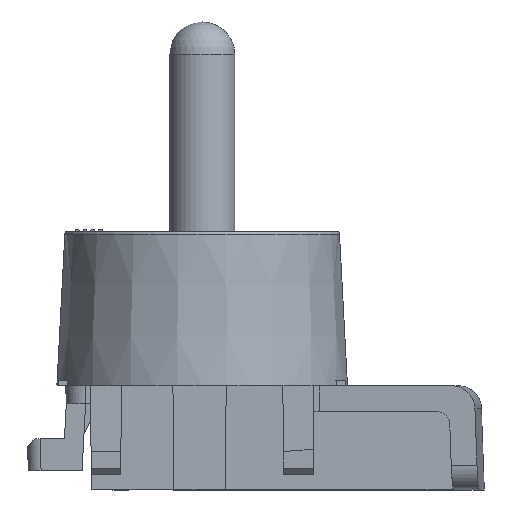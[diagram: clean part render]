
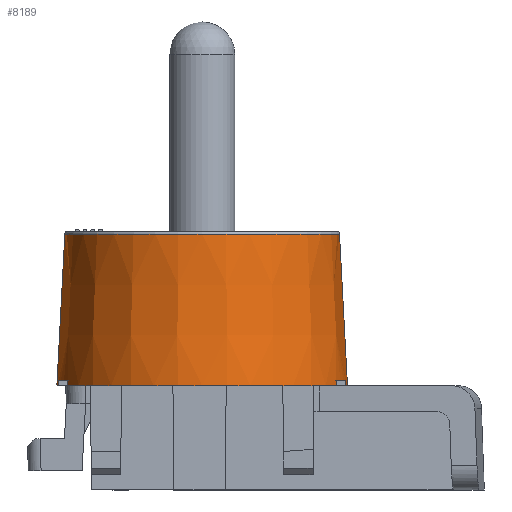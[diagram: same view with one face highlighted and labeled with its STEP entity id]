
A CAD part, front view. The second image highlights one B-rep face of the part: STEP entity #8189.
In plain terms, the highlighted conical face has half-angle 3 degrees and reference radius 11.3 mm.
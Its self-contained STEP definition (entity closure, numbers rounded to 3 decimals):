
#128=CONICAL_SURFACE('',#8724,11.3,0.052);
#391=(
BOUNDED_CURVE()
B_SPLINE_CURVE(2,(#12473,#12474,#12475),.UNSPECIFIED.,.F.,.F.)
B_SPLINE_CURVE_WITH_KNOTS((3,3),(0.097,0.141),
 .UNSPECIFIED.)
CURVE()
GEOMETRIC_REPRESENTATION_ITEM()
RATIONAL_B_SPLINE_CURVE((1.,1.,1.))
REPRESENTATION_ITEM('')
);
#392=(
BOUNDED_CURVE()
B_SPLINE_CURVE(2,(#12479,#12480,#12481),.UNSPECIFIED.,.F.,.F.)
B_SPLINE_CURVE_WITH_KNOTS((3,3),(1.243,1.287),
 .UNSPECIFIED.)
CURVE()
GEOMETRIC_REPRESENTATION_ITEM()
RATIONAL_B_SPLINE_CURVE((1.,1.,1.))
REPRESENTATION_ITEM('')
);
#393=(
BOUNDED_CURVE()
B_SPLINE_CURVE(2,(#12485,#12486,#12487),.UNSPECIFIED.,.F.,.F.)
B_SPLINE_CURVE_WITH_KNOTS((3,3),(0.097,0.14),
 .UNSPECIFIED.)
CURVE()
GEOMETRIC_REPRESENTATION_ITEM()
RATIONAL_B_SPLINE_CURVE((1.,1.,1.))
REPRESENTATION_ITEM('')
);
#394=(
BOUNDED_CURVE()
B_SPLINE_CURVE(2,(#12491,#12492,#12493),.UNSPECIFIED.,.F.,.F.)
B_SPLINE_CURVE_WITH_KNOTS((3,3),(1.242,1.286),
 .UNSPECIFIED.)
CURVE()
GEOMETRIC_REPRESENTATION_ITEM()
RATIONAL_B_SPLINE_CURVE((1.,1.,1.))
REPRESENTATION_ITEM('')
);
#455=CIRCLE('',#8726,11.276);
#456=CIRCLE('',#8727,11.3);
#457=CIRCLE('',#8728,11.276);
#458=CIRCLE('',#8729,11.3);
#459=CIRCLE('',#8730,11.3);
#460=CIRCLE('',#8731,10.681);
#678=ELLIPSE('',#8725,11.311,11.295);
#811=FACE_OUTER_BOUND('',#1269,.T.);
#1269=EDGE_LOOP('',(#5762,#5763,#5764,#5765,#5766,#5767,#5768,#5769,#5770,
#5771,#5772,#5773,#5774));
#1933=LINE('',#12438,#2706);
#1937=LINE('',#12469,#2710);
#2706=VECTOR('',#9751,11.827);
#2710=VECTOR('',#9759,11.735);
#3384=VERTEX_POINT('',#11848);
#3536=VERTEX_POINT('',#12434);
#3541=VERTEX_POINT('',#12467);
#3542=VERTEX_POINT('',#12468);
#3543=VERTEX_POINT('',#12470);
#3544=VERTEX_POINT('',#12472);
#3545=VERTEX_POINT('',#12476);
#3546=VERTEX_POINT('',#12478);
#3547=VERTEX_POINT('',#12482);
#3548=VERTEX_POINT('',#12484);
#3549=VERTEX_POINT('',#12488);
#3550=VERTEX_POINT('',#12490);
#3551=VERTEX_POINT('',#12494);
#4434=EDGE_CURVE('',#3384,#3536,#1933,.T.);
#4440=EDGE_CURVE('',#3541,#3542,#1937,.T.);
#4441=EDGE_CURVE('',#3542,#3543,#678,.T.);
#4442=EDGE_CURVE('',#3543,#3544,#391,.T.);
#4443=EDGE_CURVE('',#3544,#3545,#455,.T.);
#4444=EDGE_CURVE('',#3545,#3546,#392,.T.);
#4445=EDGE_CURVE('',#3546,#3547,#456,.T.);
#4446=EDGE_CURVE('',#3547,#3548,#393,.T.);
#4447=EDGE_CURVE('',#3548,#3549,#457,.T.);
#4448=EDGE_CURVE('',#3549,#3550,#394,.T.);
#4449=EDGE_CURVE('',#3550,#3551,#458,.T.);
#4450=EDGE_CURVE('',#3551,#3536,#459,.T.);
#4451=EDGE_CURVE('',#3384,#3541,#460,.T.);
#5762=ORIENTED_EDGE('',*,*,#4440,.T.);
#5763=ORIENTED_EDGE('',*,*,#4441,.T.);
#5764=ORIENTED_EDGE('',*,*,#4442,.T.);
#5765=ORIENTED_EDGE('',*,*,#4443,.T.);
#5766=ORIENTED_EDGE('',*,*,#4444,.T.);
#5767=ORIENTED_EDGE('',*,*,#4445,.T.);
#5768=ORIENTED_EDGE('',*,*,#4446,.T.);
#5769=ORIENTED_EDGE('',*,*,#4447,.T.);
#5770=ORIENTED_EDGE('',*,*,#4448,.T.);
#5771=ORIENTED_EDGE('',*,*,#4449,.T.);
#5772=ORIENTED_EDGE('',*,*,#4450,.T.);
#5773=ORIENTED_EDGE('',*,*,#4434,.F.);
#5774=ORIENTED_EDGE('',*,*,#4451,.T.);
#8189=ADVANCED_FACE('',(#811),#128,.T.);
#8724=AXIS2_PLACEMENT_3D('',#12466,#9757,#9758);
#8725=AXIS2_PLACEMENT_3D('',#12471,#9760,#9761);
#8726=AXIS2_PLACEMENT_3D('',#12477,#9762,#9763);
#8727=AXIS2_PLACEMENT_3D('',#12483,#9764,#9765);
#8728=AXIS2_PLACEMENT_3D('',#12489,#9766,#9767);
#8729=AXIS2_PLACEMENT_3D('',#12495,#9768,#9769);
#8730=AXIS2_PLACEMENT_3D('',#12496,#9770,#9771);
#8731=AXIS2_PLACEMENT_3D('',#12497,#9772,#9773);
#9751=DIRECTION('',(0.052,0.,-0.999));
#9757=DIRECTION('center_axis',(0.,0.,-1.));
#9758=DIRECTION('ref_axis',(-1.,0.,0.));
#9759=DIRECTION('',(-0.052,0.,-0.999));
#9760=DIRECTION('center_axis',(0.,-0.052,0.999));
#9761=DIRECTION('ref_axis',(0.,-0.999,-0.052));
#9762=DIRECTION('center_axis',(0.,0.,1.));
#9763=DIRECTION('ref_axis',(1.,0.,0.));
#9764=DIRECTION('center_axis',(0.,0.,1.));
#9765=DIRECTION('ref_axis',(-1.,0.,0.));
#9766=DIRECTION('center_axis',(0.,0.,1.));
#9767=DIRECTION('ref_axis',(-1.,0.,0.));
#9768=DIRECTION('center_axis',(0.,0.,
1.));
#9769=DIRECTION('ref_axis',(0.999,-0.035,0.));
#9770=DIRECTION('center_axis',(0.,0.,1.));
#9771=DIRECTION('ref_axis',(-1.,0.,0.));
#9772=DIRECTION('center_axis',(0.,0.,-1.));
#9773=DIRECTION('ref_axis',(1.,0.,0.));
#11848=CARTESIAN_POINT('',(-28.611,-44.55,11.882));
#12434=CARTESIAN_POINT('',(-27.992,-44.55,0.072));
#12438=CARTESIAN_POINT('',(-27.992,-44.55,0.072));
#12466=CARTESIAN_POINT('Origin',(-39.292,-44.55,0.072));
#12467=CARTESIAN_POINT('',(-49.973,-44.55,11.882));
#12468=CARTESIAN_POINT('',(-50.587,-44.55,0.164));
#12469=CARTESIAN_POINT('',(-49.973,-44.55,11.882));
#12470=CARTESIAN_POINT('',(-50.455,-46.302,0.072));
#12471=CARTESIAN_POINT('Origin',(-39.292,-44.581,0.162));
#12472=CARTESIAN_POINT('',(-50.431,-46.302,0.522));
#12473=CARTESIAN_POINT('Ctrl Pts',(-50.455,-46.302,0.072));
#12474=CARTESIAN_POINT('Ctrl Pts',(-50.443,-46.302,0.297));
#12475=CARTESIAN_POINT('Ctrl Pts',(-50.431,-46.302,0.522));
#12476=CARTESIAN_POINT('',(-49.736,-48.802,0.522));
#12477=CARTESIAN_POINT('Origin',(-39.292,-44.55,0.522));
#12478=CARTESIAN_POINT('',(-49.761,-48.802,0.072));
#12479=CARTESIAN_POINT('Ctrl Pts',(-49.736,-48.802,0.522));
#12480=CARTESIAN_POINT('Ctrl Pts',(-49.749,-48.802,0.297));
#12481=CARTESIAN_POINT('Ctrl Pts',(-49.761,-48.802,0.072));
#12482=CARTESIAN_POINT('',(-28.822,-48.802,0.072));
#12483=CARTESIAN_POINT('Origin',(-39.292,-44.55,0.072));
#12484=CARTESIAN_POINT('',(-28.848,-48.802,0.522));
#12485=CARTESIAN_POINT('Ctrl Pts',(-28.822,-48.802,0.072));
#12486=CARTESIAN_POINT('Ctrl Pts',(-28.835,-48.802,0.297));
#12487=CARTESIAN_POINT('Ctrl Pts',(-28.848,-48.802,0.522));
#12488=CARTESIAN_POINT('',(-28.152,-46.302,0.522));
#12489=CARTESIAN_POINT('Origin',(-39.292,-44.55,0.522));
#12490=CARTESIAN_POINT('',(-28.128,-46.302,0.072));
#12491=CARTESIAN_POINT('Ctrl Pts',(-28.152,-46.302,0.522));
#12492=CARTESIAN_POINT('Ctrl Pts',(-28.14,-46.302,0.297));
#12493=CARTESIAN_POINT('Ctrl Pts',(-28.128,-46.302,0.072));
#12494=CARTESIAN_POINT('',(-27.999,-44.95,0.072));
#12495=CARTESIAN_POINT('Origin',(-39.292,-44.55,0.072));
#12496=CARTESIAN_POINT('Origin',(-39.292,-44.55,0.072));
#12497=CARTESIAN_POINT('Origin',(-39.292,-44.55,11.882));
